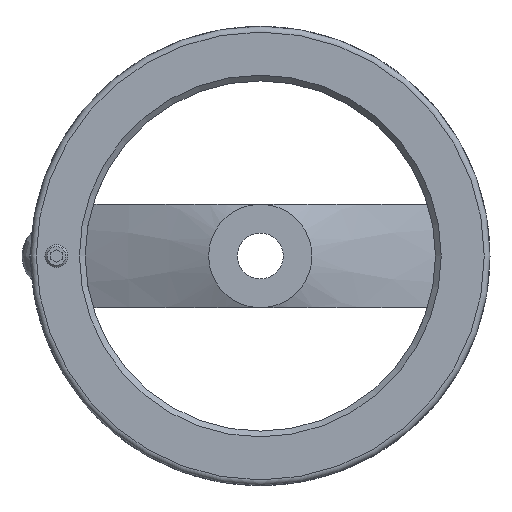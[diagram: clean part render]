
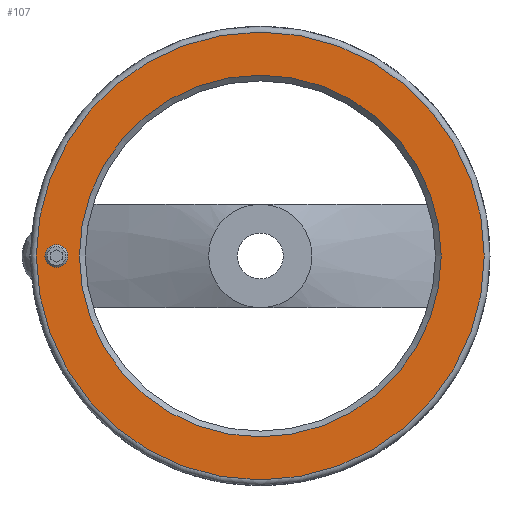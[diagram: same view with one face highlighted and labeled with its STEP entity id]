
A CAD part, left-side view. The second image highlights one B-rep face of the part: STEP entity #107.
In plain terms, the highlighted planar face has unit normal (-1, 0, 0).
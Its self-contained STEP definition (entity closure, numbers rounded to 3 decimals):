
#107 = ADVANCED_FACE( '', ( #199, #200, #201 ), #202, .T. );
#199 = FACE_OUTER_BOUND( '', #335, .T. );
#200 = FACE_BOUND( '', #336, .T. );
#201 = FACE_BOUND( '', #337, .T. );
#202 = PLANE( '', #338 );
#335 = EDGE_LOOP( '', ( #554 ) );
#336 = EDGE_LOOP( '', ( #555 ) );
#337 = EDGE_LOOP( '', ( #556 ) );
#338 = AXIS2_PLACEMENT_3D( '', #557, #558, #559 );
#554 = ORIENTED_EDGE( '', *, *, #657, .T. );
#555 = ORIENTED_EDGE( '', *, *, #624, .T. );
#556 = ORIENTED_EDGE( '', *, *, #658, .F. );
#557 = CARTESIAN_POINT( '', ( 21., -63., 0. ) );
#558 = DIRECTION( '', ( -1., 0., 0. ) );
#559 = DIRECTION( '', ( 0., 0., 1. ) );
#624 = EDGE_CURVE( '', #728, #728, #729, .T. );
#657 = EDGE_CURVE( '', #780, #780, #781, .T. );
#658 = EDGE_CURVE( '', #782, #782, #783, .T. );
#728 = VERTEX_POINT( '', #991 );
#729 = CIRCLE( '', #992, 4. );
#780 = VERTEX_POINT( '', #1055 );
#781 = CIRCLE( '', #1056, 78. );
#782 = VERTEX_POINT( '', #1057 );
#783 = CIRCLE( '', #1058, 63. );
#991 = CARTESIAN_POINT( '', ( 21., 71., -4. ) );
#992 = AXIS2_PLACEMENT_3D( '', #1101, #1102, #1103 );
#1055 = CARTESIAN_POINT( '', ( 21., 0., 78. ) );
#1056 = AXIS2_PLACEMENT_3D( '', #1173, #1174, #1175 );
#1057 = CARTESIAN_POINT( '', ( 21., 0., 63. ) );
#1058 = AXIS2_PLACEMENT_3D( '', #1176, #1177, #1178 );
#1101 = CARTESIAN_POINT( '', ( 21., 71., 0. ) );
#1102 = DIRECTION( '', ( 1., 0., 0. ) );
#1103 = DIRECTION( '', ( 0., 0., -1. ) );
#1173 = CARTESIAN_POINT( '', ( 21., 0., 0. ) );
#1174 = DIRECTION( '', ( -1., 0., 0. ) );
#1175 = DIRECTION( '', ( 0., 0., 1. ) );
#1176 = CARTESIAN_POINT( '', ( 21., 0., 0. ) );
#1177 = DIRECTION( '', ( -1., 0., 0. ) );
#1178 = DIRECTION( '', ( 0., 0., 1. ) );
